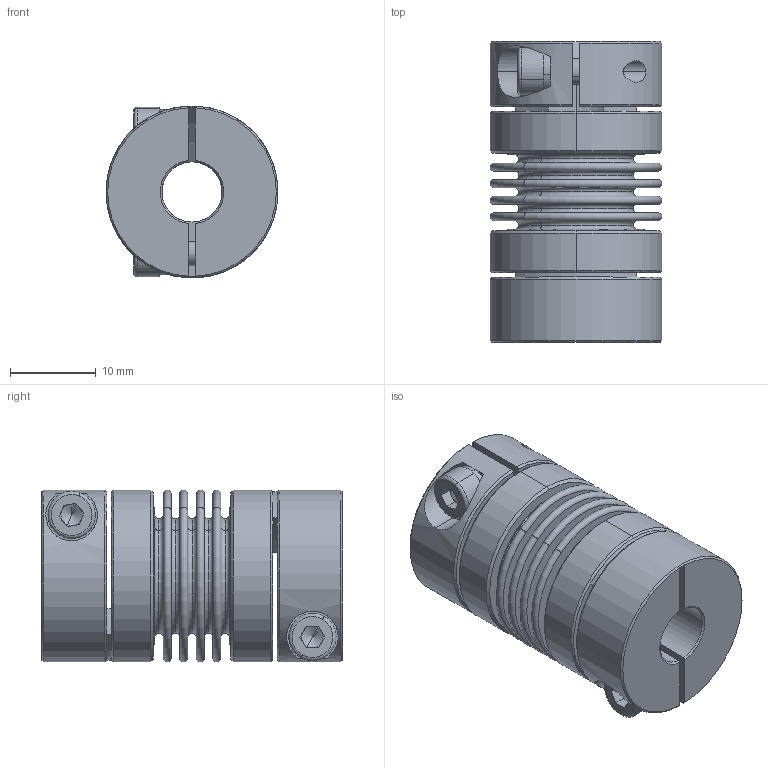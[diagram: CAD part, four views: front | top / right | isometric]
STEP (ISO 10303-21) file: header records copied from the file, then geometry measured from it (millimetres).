
FILE_DESCRIPTION (( 'STEP AP203' ), '1' );
FILE_NAME ('LB-B-D20L34-7-10.STEP', '2021-11-04T01:43:16', ( '' ), ( '' ), 'SwSTEP 2.0', 'SolidWorks 2018', '' );
FILE_SCHEMA (( 'CONFIG_CONTROL_DESIGN' ));
Length unit declared in the file: millimetre
Products named in the file (2): 零件4^LB-B-D20L34 波纹管联轴器-组装体; LB-B-D20L34-7-10
Assembly tree (1 placements, depth 2):
  LB-B-D20L34-7-10
    零件4^LB-B-D20L34 波纹管联轴器-组装体
Bounding box: 20 x 35 x 20 mm (x, y, z)
Volume: 5519.4 mm3; surface area: 9444.2 mm2
Topology: 1 solids, 1 shells, 246 faces, 566 edges, 350 vertices
Faces by surface type: plane 84, torus 68, cylinder 60, cone 34
Entity records: 7446 total; most frequent: CARTESIAN_POINT 1462, DIRECTION 1370, ORIENTED_EDGE 1124, AXIS2_PLACEMENT_3D 602, EDGE_CURVE 562, CIRCLE 352, VERTEX_POINT 350, EDGE_LOOP 288
